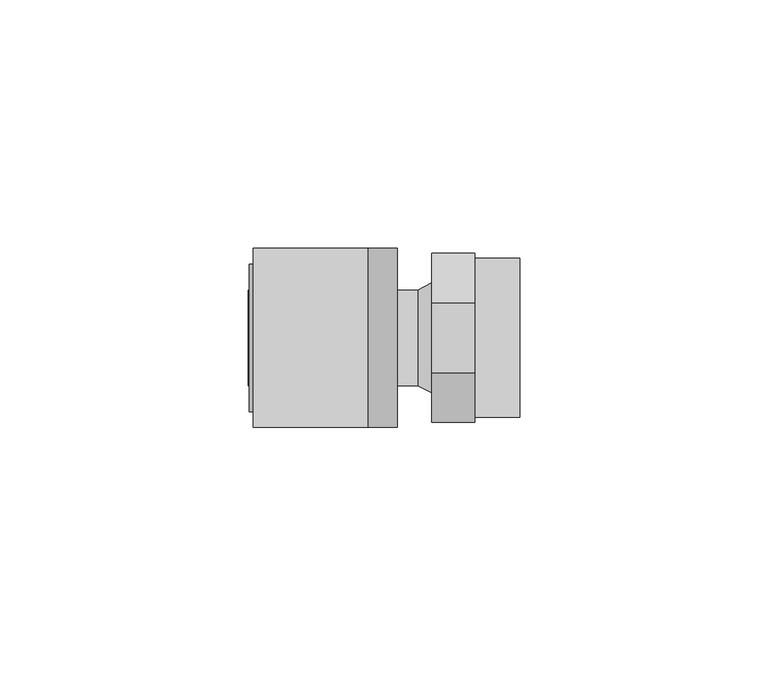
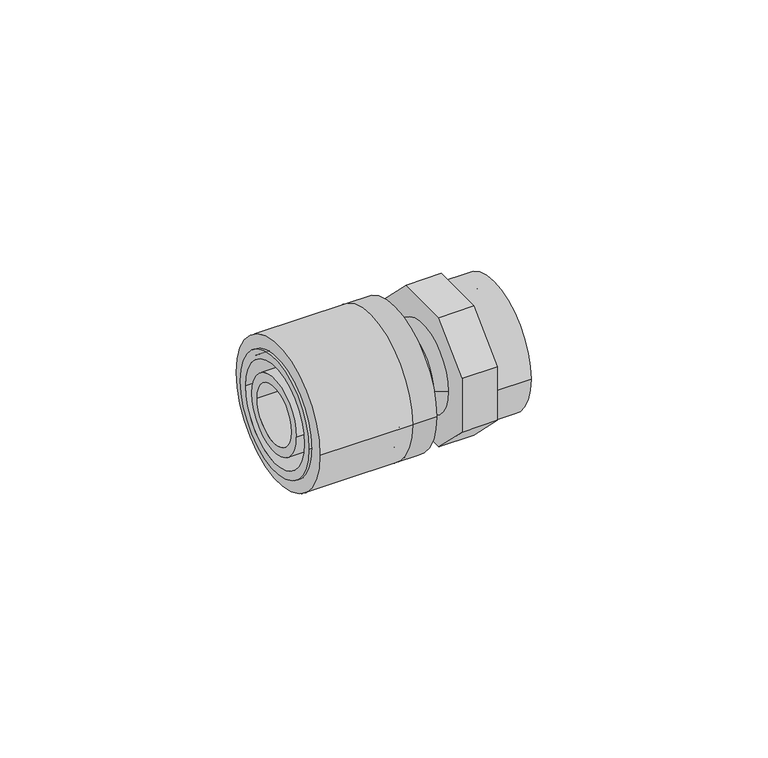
"""IFC4 building model written with IfcOpenShell, lengths in millimetres: pipe fitting geometry, FASTLOC_Adapter_LX, with internal thread : FSL A internal CZ."""

from ifc_helpers import new_model, si_unit, point, frame, origin, origin_2d, place, context, project, spatial, polyline, circle_curve, trimmed, segment, composite_curve, outline, extrude, source, transform, mapped, element, save
from ifc_brep_helpers import plane_surface, cylinder_surface, revolved_surface, advanced_brep


def pipe_fitting_18fcccac(model_context):
    return source(origin(), model_context, "Body", "SolidModel", [
        extrude(outline(composite_curve([segment(trimmed(circle_curve(origin_2d(), 18.0), [point((18.0, 0.0))], [point((-18.0, 0.0))], False, "CARTESIAN"), True, "CONTINUOUS"), segment(trimmed(circle_curve(origin_2d(), 18.0), [point((-18.0, 0.0))], [point((18.0, 0.0))], False, "CARTESIAN"), True, "CONTINUOUS")], self_intersect=False), holes=[composite_curve([segment(trimmed(circle_curve(origin_2d(), 13.5), [point((13.5, 0.0))], [point((-13.5, 0.0))], True, "CARTESIAN"), True, "CONTINUOUS"), segment(trimmed(circle_curve(origin_2d(), 13.5), [point((-13.5, 0.0))], [point((13.5, 0.0))], True, "CARTESIAN"), True, "CONTINUOUS")], self_intersect=False)]), frame((-35.9, 0.0, 0.0), z_axis=(1.0, 0.0, 0.0), x_axis=(0.0, 1.0, 0.0)), (0.0, 0.0, 1.0), 23.0),
        advanced_brep(
        [(-12.9, -18.0, 0.0), (-12.9, 18.0, 0.0), (-6.9, 18.0, 0.0), (-6.9, -18.0, 0.0), (-36.7, -14.85, 0.0), (-36.7, 14.85, 0.0), (-12.9, 14.85, 0.0), (-12.9, -14.85, 0.0), (-6.9, -12.65, 0.0), (-6.9, 12.65, 0.0), (-36.7, 12.65, 0.0), (-36.7, -12.65, 0.0)],
        [
            (0, 1, circle_curve(frame((-12.9, 0.0, 0.0), z_axis=(1.0, 0.0, 0.0), x_axis=(0.0, 1.0, 0.0)), 18.0)),
            (1, 2),
            (2, 3, circle_curve(frame((-6.9, 0.0, 0.0), z_axis=(-1.0, 0.0, 0.0), x_axis=(0.0, 1.0, 0.0)), 18.0)),
            (3, 0),
            (4, 5, circle_curve(frame((-36.7, 0.0, 0.0), z_axis=(1.0, 0.0, 0.0), x_axis=(0.0, 1.0, 0.0)), 14.85)),
            (5, 6),
            (6, 7, circle_curve(frame((-12.9, 0.0, 0.0), z_axis=(-1.0, 0.0, 0.0), x_axis=(0.0, 1.0, 0.0)), 14.85)),
            (7, 4),
            (8, 9, circle_curve(frame((-6.9, 0.0, 0.0), z_axis=(1.0, 0.0, 0.0), x_axis=(0.0, 1.0, 0.0)), 12.65)),
            (9, 10),
            (10, 11, circle_curve(frame((-36.7, 0.0, 0.0), z_axis=(-1.0, 0.0, 0.0), x_axis=(0.0, 1.0, 0.0)), 12.65)),
            (11, 8),
            (1, 0, circle_curve(frame((-12.9, 0.0, 0.0), z_axis=(1.0, 0.0, 0.0), x_axis=(0.0, -1.0, 0.0)), 18.0)),
            (3, 2, circle_curve(frame((-6.9, 0.0, 0.0), z_axis=(-1.0, 0.0, 0.0), x_axis=(0.0, -1.0, 0.0)), 18.0)),
            (6, 7, circle_curve(frame((-12.9, 0.0, 0.0), z_axis=(1.0, 0.0, 0.0), x_axis=(0.0, -1.0, 0.0)), 14.85)),
            (5, 4, circle_curve(frame((-36.7, 0.0, 0.0), z_axis=(1.0, 0.0, 0.0), x_axis=(0.0, -1.0, 0.0)), 14.85)),
            (10, 11, circle_curve(frame((-36.7, 0.0, 0.0), z_axis=(1.0, 0.0, 0.0), x_axis=(0.0, -1.0, 0.0)), 12.65)),
            (9, 8, circle_curve(frame((-6.9, 0.0, 0.0), z_axis=(1.0, 0.0, 0.0), x_axis=(0.0, -1.0, 0.0)), 12.65)),
        ],
        [
            cylinder_surface(frame((-6.9, 0.0, 0.0), z_axis=(-1.0, 0.0, 0.0), x_axis=(0.0, 1.0, 0.0)), 18.0),
            cylinder_surface(frame((-6.9, 0.0, 0.0), z_axis=(-1.0, 0.0, 0.0), x_axis=(0.0, 1.0, 0.0)), 14.85),
            revolved_surface(polyline([(-36.7, 12.65, 0.0), (-6.9, 12.65, 0.0)]), (-6.9, 0.0, 0.0), (-1.0, 0.0, 0.0)),
            cylinder_surface(frame((-6.9, 0.0, 0.0), z_axis=(-1.0, 0.0, 0.0), x_axis=(0.0, -1.0, 0.0)), 18.0),
            plane_surface(frame((-12.9, 0.0, 0.0), z_axis=(-1.0, 0.0, 0.0), x_axis=(0.0, -1.0, 0.0))),
            cylinder_surface(frame((-6.9, 0.0, 0.0), z_axis=(-1.0, 0.0, 0.0), x_axis=(0.0, -1.0, 0.0)), 14.85),
            plane_surface(frame((-36.7, 0.0, 0.0), z_axis=(-1.0, 0.0, 0.0), x_axis=(0.0, -1.0, 0.0))),
            revolved_surface(polyline([(-36.7, -12.65, 0.0), (-6.9, -12.65, 0.0)]), (-6.9, 0.0, 0.0), (-1.0, 0.0, 0.0)),
            plane_surface(frame((-6.9, 0.0, 0.0), z_axis=(1.0, 0.0, 0.0), x_axis=(0.0, -1.0, 0.0))),
        ],
        [
            (0, [[1, 2, 3, 4]]),
            (1, [[5, 6, 7, 8]]),
            (2, [[9, 10, 11, 12]]),
            (3, [[13, -4, 14, -2]]),
            (4, [[-13, -1], [15, -7]]),
            (5, [[16, -8, -15, -6]]),
            (6, [[-16, -5], [17, -11]]),
            (7, [[18, -12, -17, -10]]),
            (8, [[-14, -3], [-18, -9]]),
        ],
    ),
        advanced_brep(
        [(-12.9, 9.6, 0.0), (-12.9, -9.6, 0.0), (-36.9, -9.6, 0.0), (-36.9, 9.6, 0.0), (-10.1, 11.1, 0.0), (-10.1, -11.1, 0.0), (-12.9, -11.1, 0.0), (-12.9, 11.1, 0.0), (-2.8, 9.6, 0.0), (-2.8, -9.6, 0.0), (-10.1, -9.6, 0.0), (-10.1, 9.6, 0.0), (0.0, 11.1, 0.0), (0.0, -11.1, 0.0), (-36.9, 7.35, 0.0), (-36.9, -7.35, 0.0), (0.0, -7.35, 0.0), (0.0, 7.35, 0.0)],
        [
            (0, 1, circle_curve(frame((-12.9, 0.0, 0.0), z_axis=(-1.0, 0.0, 0.0), x_axis=(0.0, -1.0, 0.0)), 9.6)),
            (1, 2),
            (2, 3, circle_curve(frame((-36.9, 0.0, 0.0), z_axis=(1.0, 0.0, 0.0), x_axis=(0.0, -1.0, 0.0)), 9.6)),
            (3, 0),
            (4, 5, circle_curve(frame((-10.1, 0.0, 0.0), z_axis=(-1.0, 0.0, 0.0), x_axis=(0.0, -1.0, 0.0)), 11.1)),
            (5, 6),
            (6, 7, circle_curve(frame((-12.9, 0.0, 0.0), z_axis=(1.0, 0.0, 0.0), x_axis=(0.0, -1.0, 0.0)), 11.1)),
            (7, 4),
            (8, 9, circle_curve(frame((-2.8, 0.0, 0.0), z_axis=(-1.0, 0.0, 0.0), x_axis=(0.0, -1.0, 0.0)), 9.6)),
            (9, 10),
            (10, 11, circle_curve(frame((-10.1, 0.0, 0.0), z_axis=(1.0, 0.0, 0.0), x_axis=(0.0, -1.0, 0.0)), 9.6)),
            (11, 8),
            (12, 13, circle_curve(frame((0.0, 0.0, 0.0), z_axis=(-1.0, 0.0, 0.0), x_axis=(0.0, -1.0, 0.0)), 11.1)),
            (13, 9),
            (8, 12),
            (14, 15, circle_curve(frame((-36.9, 0.0, 0.0), z_axis=(-1.0, 0.0, 0.0), x_axis=(0.0, -1.0, 0.0)), 7.35)),
            (15, 16),
            (16, 17, circle_curve(frame((0.0, 0.0, 0.0), z_axis=(1.0, 0.0, 0.0), x_axis=(0.0, -1.0, 0.0)), 7.35)),
            (17, 14),
            (2, 3, circle_curve(frame((-36.9, 0.0, 0.0), z_axis=(-1.0, 0.0, 0.0), x_axis=(0.0, 1.0, 0.0)), 9.6)),
            (14, 15, circle_curve(frame((-36.9, 0.0, 0.0), z_axis=(1.0, 0.0, 0.0), x_axis=(0.0, 1.0, 0.0)), 7.35)),
            (1, 0, circle_curve(frame((-12.9, 0.0, 0.0), z_axis=(-1.0, 0.0, 0.0), x_axis=(0.0, 1.0, 0.0)), 9.6)),
            (6, 7, circle_curve(frame((-12.9, 0.0, 0.0), z_axis=(-1.0, 0.0, 0.0), x_axis=(0.0, 1.0, 0.0)), 11.1)),
            (5, 4, circle_curve(frame((-10.1, 0.0, 0.0), z_axis=(-1.0, 0.0, 0.0), x_axis=(0.0, 1.0, 0.0)), 11.1)),
            (10, 11, circle_curve(frame((-10.1, 0.0, 0.0), z_axis=(-1.0, 0.0, 0.0), x_axis=(0.0, 1.0, 0.0)), 9.6)),
            (9, 8, circle_curve(frame((-2.8, 0.0, 0.0), z_axis=(-1.0, 0.0, 0.0), x_axis=(0.0, 1.0, 0.0)), 9.6)),
            (13, 12, circle_curve(frame((0.0, 0.0, 0.0), z_axis=(-1.0, 0.0, 0.0), x_axis=(0.0, 1.0, 0.0)), 11.1)),
            (16, 17, circle_curve(frame((0.0, 0.0, 0.0), z_axis=(-1.0, 0.0, 0.0), x_axis=(0.0, 1.0, 0.0)), 7.35)),
        ],
        [
            cylinder_surface(frame((0.0, 0.0, 0.0), z_axis=(1.0, 0.0, 0.0), x_axis=(0.0, -1.0, 0.0)), 9.6),
            cylinder_surface(frame((0.0, 0.0, 0.0), z_axis=(1.0, 0.0, 0.0), x_axis=(0.0, -1.0, 0.0)), 11.1),
            revolved_surface(polyline([(-2.8, -9.6, 0.0), (0.0, -11.1, 0.0)]), (0.0, 0.0, 0.0), (1.0, 0.0, 0.0)),
            revolved_surface(polyline([(0.0, -7.35, 0.0), (-36.9, -7.35, 0.0)]), (0.0, 0.0, 0.0), (1.0, 0.0, 0.0)),
            plane_surface(frame((-36.9, 0.0, 0.0), z_axis=(-1.0, 0.0, 0.0), x_axis=(0.0, 1.0, 0.0))),
            cylinder_surface(frame((0.0, 0.0, 0.0), z_axis=(1.0, 0.0, 0.0), x_axis=(0.0, 1.0, 0.0)), 9.6),
            plane_surface(frame((-12.9, 0.0, 0.0), z_axis=(-1.0, 0.0, 0.0), x_axis=(0.0, 1.0, 0.0))),
            cylinder_surface(frame((0.0, 0.0, 0.0), z_axis=(1.0, 0.0, 0.0), x_axis=(0.0, 1.0, 0.0)), 11.1),
            plane_surface(frame((-10.1, 0.0, 0.0), z_axis=(1.0, 0.0, 0.0), x_axis=(0.0, 1.0, 0.0))),
            revolved_surface(polyline([(-2.8, 9.6, 0.0), (0.0, 11.1, 0.0)]), (0.0, 0.0, 0.0), (1.0, 0.0, 0.0)),
            plane_surface(frame((0.0, 0.0, 0.0), z_axis=(1.0, 0.0, 0.0), x_axis=(0.0, 1.0, 0.0))),
            revolved_surface(polyline([(0.0, 7.35, 0.0), (-36.9, 7.35, 0.0)]), (0.0, 0.0, 0.0), (1.0, 0.0, 0.0)),
        ],
        [
            (0, [[1, 2, 3, 4]]),
            (1, [[5, 6, 7, 8]]),
            (0, [[9, 10, 11, 12]]),
            (2, [[13, 14, -9, 15]]),
            (3, [[16, 17, 18, 19]]),
            (4, [[20, -3], [21, -16]]),
            (5, [[22, -4, -20, -2]]),
            (6, [[23, -7], [-22, -1]]),
            (7, [[24, -8, -23, -6]]),
            (8, [[-24, -5], [25, -11]]),
            (5, [[26, -12, -25, -10]]),
            (9, [[27, -15, -26, -14]]),
            (10, [[-27, -13], [28, -18]]),
            (11, [[-21, -19, -28, -17]]),
        ],
    ),
        extrude(outline(polyline([(-7.0416306, -17.0), (-17.0, -7.0416306), (-17.0, 7.0416306), (-7.0416306, 17.0), (7.0416306, 17.0), (17.0, 7.0416306), (17.0, -7.0416306), (7.0416306, -17.0), (-7.0416306, -17.0)]), holes=[composite_curve([segment(trimmed(circle_curve(origin_2d(), 7.35), [point((-7.35, 0.0))], [point((7.35, 0.0))], True, "CARTESIAN"), True, "CONTINUOUS"), segment(trimmed(circle_curve(origin_2d(), 7.35), [point((7.35, 0.0))], [point((-7.35, 0.0))], True, "CARTESIAN"), True, "CONTINUOUS")], self_intersect=False)]), frame((0.0, 0.0, 0.0), z_axis=(1.0, 0.0, 0.0), x_axis=(0.0, 1.0, 0.0)), (0.0, 0.0, 1.0), 8.7),
        extrude(outline(composite_curve([segment(trimmed(circle_curve(origin_2d(), 16.0), [point((-16.0, 0.0))], [point((16.0, 0.0))], False, "CARTESIAN"), True, "CONTINUOUS"), segment(trimmed(circle_curve(origin_2d(), 16.0), [point((16.0, 0.0))], [point((-16.0, 0.0))], False, "CARTESIAN"), True, "CONTINUOUS")], self_intersect=False), holes=[composite_curve([segment(trimmed(circle_curve(origin_2d(), 12.05), [point((-12.05, 0.0))], [point((12.05, 0.0))], True, "CARTESIAN"), True, "CONTINUOUS"), segment(trimmed(circle_curve(origin_2d(), 12.05), [point((12.05, 0.0))], [point((-12.05, 0.0))], True, "CARTESIAN"), True, "CONTINUOUS")], self_intersect=False)]), frame((8.7, 0.0, 0.0), z_axis=(1.0, 0.0, 0.0), x_axis=(0.0, 1.0, 0.0)), (0.0, 0.0, 1.0), 9.0),
    ])


if __name__ == "__main__":
    model = new_model("IFC4")
    model_context = context("Model", 3, world=origin())
    ifc_project = project(units=[si_unit("LENGTHUNIT", "METRE", prefix="MILLI")], contexts=[model_context])
    site = spatial("IfcSite", under=ifc_project)
    building = spatial("IfcBuilding", under=site)
    placement = place(None, origin())
    pipe_fitting_shape = pipe_fitting_18fcccac(model_context)
    element("IfcPipeFitting", 1, ObjectType="FASTLOC_Adapter_LX, with internal thread : FSL A internal CZ", at=placement, inside=building, context=model_context, shape_type="MappedRepresentation", body=[
        mapped(pipe_fitting_shape, transform((0.0, 0.0, 0.0), x_axis=(1.0, 0.0, 0.0), y_axis=(0.0, 1.0, 0.0), z_axis=(0.0, 0.0, 1.0))),
    ])
    save(model, "model.ifc")
